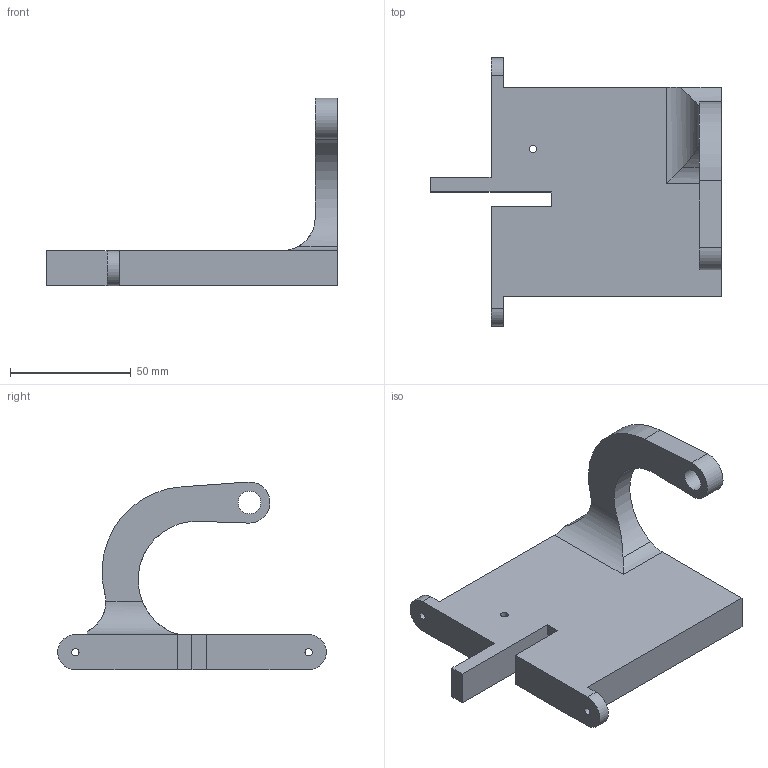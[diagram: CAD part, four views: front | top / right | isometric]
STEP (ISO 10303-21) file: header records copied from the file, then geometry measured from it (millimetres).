
FILE_DESCRIPTION(('STEP AP242 Edition 2','STEP AP242 Edition 2''CAx-IF Rec.Pracs.---Representation and Presentation of Product Manufacturing Information (PMI)---4.0---2014-10-13','STEP AP242 Edition 2''CAx-IF Rec.Pracs.---Representation and Presentation of Product Manufacturing Information (PMI)---4.0---2014-10-13''CAx-IF Rec.Pracs.---3D Tessellated Geometry---0.4---2014-09-14','STEP AP242 Edition 2''CAx-IF Rec.Pracs.---Representation and Presentation of Product Manufacturing Information (PMI)---4.0---2014-10-13''CAx-IF Rec.Pracs.---3D Tessellated Geometry---0.4---2014-09-14''2;1','STEP AP242 Edition 2''CAx-IF Rec.Pracs.---Representation and Presentation of Product Manufacturing Information (PMI)---4.0---2014-10-13''CAx-IF Rec.Pracs.---3D Tessellated Geometry---0.4---2014-09-14''2;1''CAx-IF Rec.Pracs.---User Defined Attributes---1.5---2016-08-15'),'2;1');
FILE_NAME('/vol/tmp/translate-4500610375692572013/Assembly 1 - Part 9.step','2026-02-26T04:21:29',(''),(''),'ST-DEVELOPER v20','ONSHAPE BY PTC INC, 1.211',' ');
FILE_SCHEMA(('AP242_MANAGED_MODEL_BASED_3D_ENGINEERING_MIM_LF { 1 0 10303 442 3 1 4 }'));
Length unit declared in the file: metre
Products named in the file (1): Part 9
Bounding box: 120.3 x 111.07 x 77.71 mm (x, y, z)
Volume: 138255.9 mm3; surface area: 29438.2 mm2
Topology: 1 solids, 1 shells, 29 faces, 82 edges, 55 vertices
Faces by surface type: plane 17, cylinder 12
Full cylindrical faces by diameter (mm): 3 x2, 3.2 x1, 9.4 x1
Entity records: 962 total; most frequent: CARTESIAN_POINT 168, DIRECTION 160, ORIENTED_EDGE 154, EDGE_CURVE 77, VERTEX_POINT 54, AXIS2_PLACEMENT_3D 54, LINE 52, VECTOR 52
